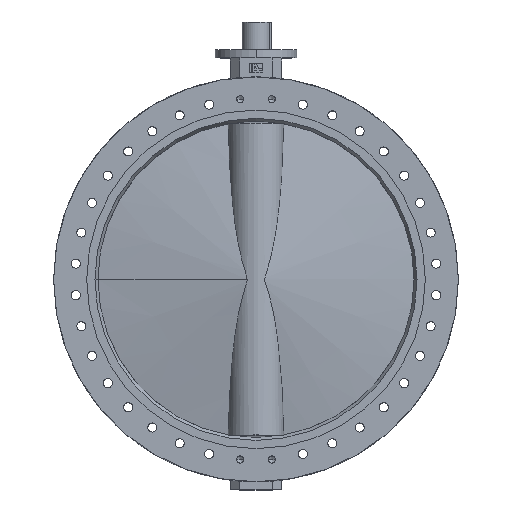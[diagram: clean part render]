
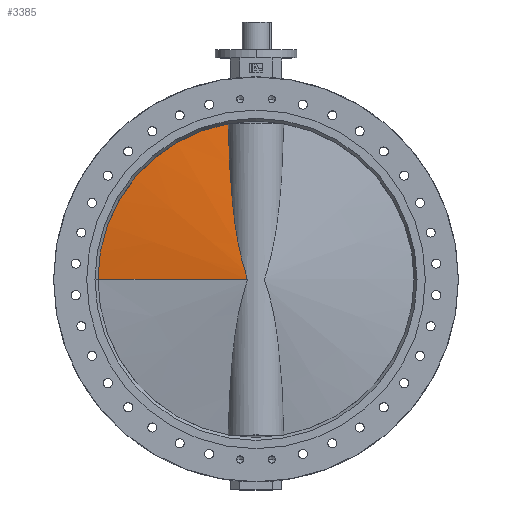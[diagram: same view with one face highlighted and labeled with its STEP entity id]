
A CAD part, top view. The second image highlights one B-rep face of the part: STEP entity #3385.
In plain terms, the highlighted conical face has half-angle 80.856 degrees and reference radius 683.427 mm.
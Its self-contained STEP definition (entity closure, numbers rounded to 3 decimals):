
#286 = LINE ( 'NONE', #5900, #287 ) ;
#287 = VECTOR ( 'NONE', #5901, 1000. ) ;
#306 = CIRCLE ( 'NONE', #11473, 681.767 ) ;
#1091 = ORIENTED_EDGE ( 'NONE', *, *, #1363, .F. ) ;
#1092 = ORIENTED_EDGE ( 'NONE', *, *, #1383, .F. ) ;
#1093 = ORIENTED_EDGE ( 'NONE', *, *, #1384, .T. ) ;
#1363 = EDGE_CURVE ( 'NONE', #8487, #8502, #286, .T. ) ;
#1383 = EDGE_CURVE ( 'NONE', #8512, #8487, #3470, .T. ) ;
#1384 = EDGE_CURVE ( 'NONE', #8512, #8502, #306, .T. ) ;
#1672 = FACE_OUTER_BOUND ( 'NONE', #2377, .T. ) ;
#1676 = CONICAL_SURFACE ( 'NONE', #11696, 683.427, 1.411 ) ;
#2377 = EDGE_LOOP ( 'NONE', ( #1091, #1092, #1093 ) ) ;
#3385 = ADVANCED_FACE ( 'NONE', ( #1672 ), #1676, .T. ) ;
#3470 = B_SPLINE_CURVE_WITH_KNOTS ( 'NONE', 3,
 ( #10396, #10397, #10401, #10402, #10403, #10404, #10405, #10406, #10407, #10408, #10409, #10410, #10411, #10412, #10413, #10414, #10415, #10416, #10417, #10418, #10419, #10420, #10421, #10422, #10423, #10424, #10425, #10426, #10427, #10428, #10429, #10430, #10431, #10432, #10433, #10434, #10435, #10436, #10437, #10438, #10439, #10440, #10441, #10442, #10443, #10444, #10445, #10446 ),
 .UNSPECIFIED., .F., .F.,
 ( 4, 2, 2, 2, 2, 2, 2, 2, 2, 2, 2, 2, 2, 2, 2, 2, 2, 2, 2, 2, 2, 2, 2, 4 ),
 ( 0.07, 0.156, 0.241, 0.327, 0.413, 0.456, 0.499, 0.542, 0.585, 0.628, 0.649, 0.67, 0.692, 0.703, 0.713, 0.724, 0.729, 0.735, 0.74, 0.746, 0.751, 0.752, 0.754, 0.756 ),
 .UNSPECIFIED. ) ;
#5118 = CARTESIAN_POINT ( 'NONE',  ( -113.94, 0., -37.653 ) ) ;
#5133 = CARTESIAN_POINT ( 'NONE',  ( -10.267, 0., -681.767 ) ) ;
#5143 = CARTESIAN_POINT ( 'NONE',  ( -10.267, 671.202, -119.56 ) ) ;
#5900 = CARTESIAN_POINT ( 'NONE',  ( -10., 0., -683.427 ) ) ;
#5901 = DIRECTION ( 'NONE',  ( 0.159, 0., -0.987 ) ) ;
#7653 = DIRECTION ( 'NONE',  ( 0., 0., -1. ) ) ;
#7654 = CARTESIAN_POINT ( 'NONE',  ( -10., 0., 0. ) ) ;
#7655 = DIRECTION ( 'NONE',  ( 1., 0., 0. ) ) ;
#8487 = VERTEX_POINT ( 'NONE', #5118 ) ;
#8502 = VERTEX_POINT ( 'NONE', #5133 ) ;
#8512 = VERTEX_POINT ( 'NONE', #5143 ) ;
#10396 = CARTESIAN_POINT ( 'NONE',  ( -10.267, 671.202, -119.56 ) ) ;
#10397 = CARTESIAN_POINT ( 'NONE',  ( -14.754, 642.954, -119.175 ) ) ;
#10401 = CARTESIAN_POINT ( 'NONE',  ( -19.24, 614.711, -118.536 ) ) ;
#10402 = CARTESIAN_POINT ( 'NONE',  ( -28.209, 558.239, -116.727 ) ) ;
#10403 = CARTESIAN_POINT ( 'NONE',  ( -32.693, 530.009, -115.557 ) ) ;
#10404 = CARTESIAN_POINT ( 'NONE',  ( -41.656, 473.564, -112.637 ) ) ;
#10405 = CARTESIAN_POINT ( 'NONE',  ( -46.133, 445.366, -110.888 ) ) ;
#10406 = CARTESIAN_POINT ( 'NONE',  ( -55.076, 389.027, -106.728 ) ) ;
#10407 = CARTESIAN_POINT ( 'NONE',  ( -59.542, 360.886, -104.319 ) ) ;
#10408 = CARTESIAN_POINT ( 'NONE',  ( -66.231, 318.726, -100.102 ) ) ;
#10409 = CARTESIAN_POINT ( 'NONE',  ( -68.459, 304.681, -98.595 ) ) ;
#10410 = CARTESIAN_POINT ( 'NONE',  ( -72.91, 276.61, -95.351 ) ) ;
#10411 = CARTESIAN_POINT ( 'NONE',  ( -75.133, 262.584, -93.613 ) ) ;
#10412 = CARTESIAN_POINT ( 'NONE',  ( -79.574, 234.558, -89.869 ) ) ;
#10413 = CARTESIAN_POINT ( 'NONE',  ( -81.79, 220.566, -87.864 ) ) ;
#10414 = CARTESIAN_POINT ( 'NONE',  ( -86.209, 192.636, -83.532 ) ) ;
#10415 = CARTESIAN_POINT ( 'NONE',  ( -88.413, 178.697, -81.205 ) ) ;
#10416 = CARTESIAN_POINT ( 'NONE',  ( -92.803, 150.886, -76.149 ) ) ;
#10417 = CARTESIAN_POINT ( 'NONE',  ( -94.99, 137.013, -73.421 ) ) ;
#10418 = CARTESIAN_POINT ( 'NONE',  ( -98.248, 116.268, -68.926 ) ) ;
#10419 = CARTESIAN_POINT ( 'NONE',  ( -99.329, 109.369, -67.362 ) ) ;
#10420 = CARTESIAN_POINT ( 'NONE',  ( -101.478, 95.612, -64.078 ) ) ;
#10421 = CARTESIAN_POINT ( 'NONE',  ( -102.546, 88.753, -62.359 ) ) ;
#10422 = CARTESIAN_POINT ( 'NONE',  ( -104.662, 75.083, -58.739 ) ) ;
#10423 = CARTESIAN_POINT ( 'NONE',  ( -105.71, 68.272, -56.837 ) ) ;
#10424 = CARTESIAN_POINT ( 'NONE',  ( -107.255, 58.092, -53.83 ) ) ;
#10425 = CARTESIAN_POINT ( 'NONE',  ( -107.765, 54.706, -52.801 ) ) ;
#10426 = CARTESIAN_POINT ( 'NONE',  ( -108.773, 47.944, -50.694 ) ) ;
#10427 = CARTESIAN_POINT ( 'NONE',  ( -109.27, 44.569, -49.614 ) ) ;
#10428 = CARTESIAN_POINT ( 'NONE',  ( -110.242, 37.827, -47.415 ) ) ;
#10429 = CARTESIAN_POINT ( 'NONE',  ( -110.717, 34.46, -46.294 ) ) ;
#10430 = CARTESIAN_POINT ( 'NONE',  ( -111.402, 29.408, -44.609 ) ) ;
#10431 = CARTESIAN_POINT ( 'NONE',  ( -111.625, 27.723, -44.047 ) ) ;
#10432 = CARTESIAN_POINT ( 'NONE',  ( -112.058, 24.349, -42.935 ) ) ;
#10433 = CARTESIAN_POINT ( 'NONE',  ( -112.267, 22.66, -42.384 ) ) ;
#10434 = CARTESIAN_POINT ( 'NONE',  ( -112.665, 19.271, -41.314 ) ) ;
#10435 = CARTESIAN_POINT ( 'NONE',  ( -112.855, 17.571, -40.794 ) ) ;
#10436 = CARTESIAN_POINT ( 'NONE',  ( -113.202, 14.151, -39.819 ) ) ;
#10437 = CARTESIAN_POINT ( 'NONE',  ( -113.361, 12.43, -39.364 ) ) ;
#10438 = CARTESIAN_POINT ( 'NONE',  ( -113.631, 8.95, -38.577 ) ) ;
#10439 = CARTESIAN_POINT ( 'NONE',  ( -113.743, 7.191, -38.244 ) ) ;
#10440 = CARTESIAN_POINT ( 'NONE',  ( -113.84, 4.953, -37.954 ) ) ;
#10441 = CARTESIAN_POINT ( 'NONE',  ( -113.857, 4.503, -37.902 ) ) ;
#10442 = CARTESIAN_POINT ( 'NONE',  ( -113.887, 3.6, -37.813 ) ) ;
#10443 = CARTESIAN_POINT ( 'NONE',  ( -113.899, 3.146, -37.775 ) ) ;
#10444 = CARTESIAN_POINT ( 'NONE',  ( -113.93, 1.792, -37.684 ) ) ;
#10445 = CARTESIAN_POINT ( 'NONE',  ( -113.94, 0.894, -37.653 ) ) ;
#10446 = CARTESIAN_POINT ( 'NONE',  ( -113.94, 0., -37.653 ) ) ;
#10450 = CARTESIAN_POINT ( 'NONE',  ( -10.267, 0., 0. ) ) ;
#10451 = DIRECTION ( 'NONE',  ( -1., 0., 0. ) ) ;
#10452 = DIRECTION ( 'NONE',  ( 0., 0., 1. ) ) ;
#11473 = AXIS2_PLACEMENT_3D ( 'NONE', #10450, #10451, #10452 ) ;
#11696 = AXIS2_PLACEMENT_3D ( 'NONE', #7654, #7655, #7653 ) ;
